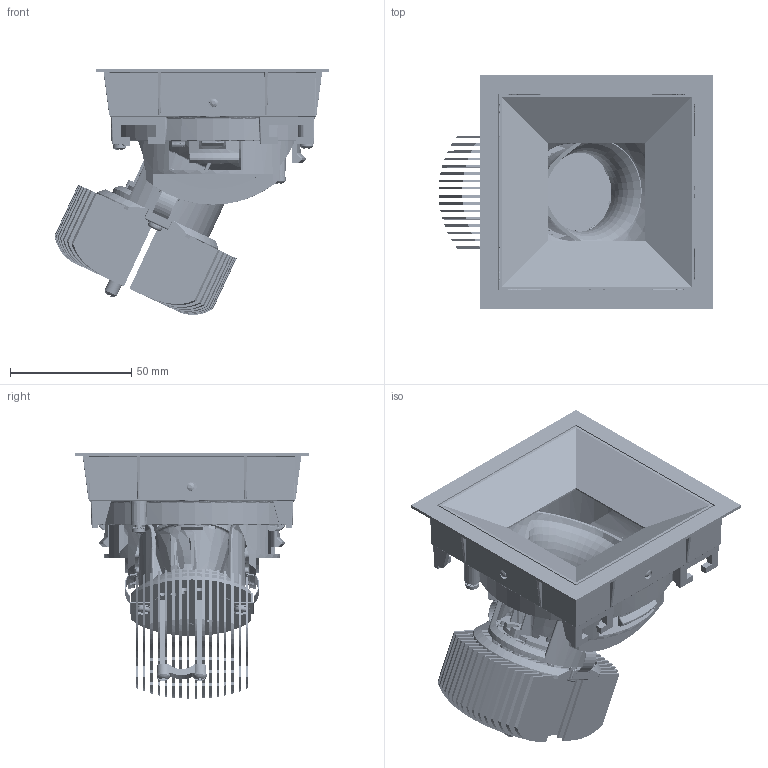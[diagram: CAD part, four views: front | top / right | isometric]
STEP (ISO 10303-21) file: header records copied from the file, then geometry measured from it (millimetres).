
FILE_DESCRIPTION(('CATIA V5 STEP Exchange'),'2;1');
FILE_NAME('C:\Users\stefano.giovinetto\Desktop\X.NP1C - M PRO Adj Square Trim Recessed.stp','2020-10-29T10:53:41+00:00',('none'),('none'),'CATIA Version 5 Release 20 SP 7 (IN-10)','CATIA V5 STEP AP203','none');
FILE_SCHEMA(('CONFIG_CONTROL_DESIGN'));
Products named in the file (1): X.NP1CK
Bounding box: 113.14 x 96 x 101.15 mm (x, y, z)
Volume: 139730.6 mm3; surface area: 169734.4 mm2
Topology: 47 solids, 203 shells, 9287 faces, 26516 edges, 17623 vertices
Faces by surface type: plane 6520, cylinder 1565, bspline 400, torus 287, cone 279, extrusion 120, sphere 114, revolution 2
Entity records: 352298 total; most frequent: CARTESIAN_POINT 124382, ORIENTED_EDGE 51756, DIRECTION 37974, EDGE_CURVE 26415, VECTOR 18118, LINE 17998, VERTEX_POINT 17623, AXIS2_PLACEMENT_3D 11257
